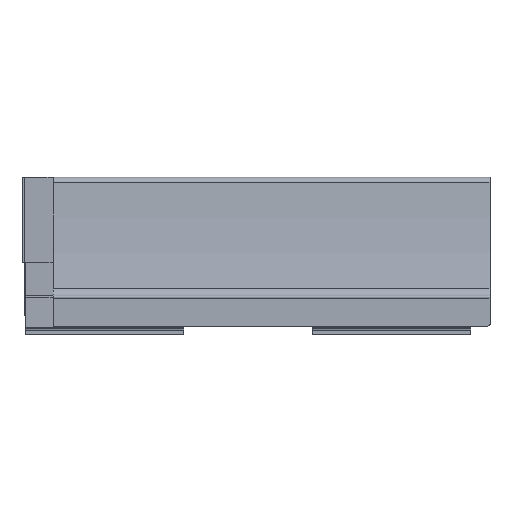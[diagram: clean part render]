
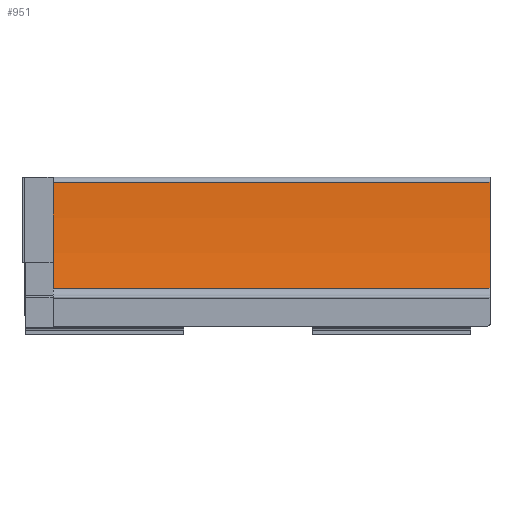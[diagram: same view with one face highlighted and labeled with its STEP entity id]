
A CAD part, left-side view. The second image highlights one B-rep face of the part: STEP entity #951.
In plain terms, the highlighted cylindrical face has radius 350 mm (diameter 700 mm), a partial arc.
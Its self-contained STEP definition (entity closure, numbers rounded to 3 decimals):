
#57 = AXIS2_PLACEMENT_3D ( 'NONE', #2640, #2642, #2643 ) ;
#145 = EDGE_CURVE ( 'NONE', #1989, #1988, #2908, .T. ) ;
#226 = AXIS2_PLACEMENT_3D ( 'NONE', #2045, #3018, #3019 ) ;
#261 = AXIS2_PLACEMENT_3D ( 'NONE', #2079, #2071, #2074 ) ;
#344 = EDGE_CURVE ( 'NONE', #1988, #1684, #802, .T. ) ;
#399 = EDGE_CURVE ( 'NONE', #1685, #1684, #2501, .T. ) ;
#407 = EDGE_CURVE ( 'NONE', #1989, #1685, #2511, .T. ) ;
#504 = CARTESIAN_POINT ( 'NONE',  ( -27.28, 248.8, -13.751 ) ) ;
#505 = CARTESIAN_POINT ( 'NONE',  ( -19.877, 248.8, 46.603 ) ) ;
#802 = LINE ( 'NONE', #3400, #803 ) ;
#803 = VECTOR ( 'NONE', #3401, 1000. ) ;
#951 = ADVANCED_FACE ( 'NONE', ( #3177 ), #3161, .F. ) ;
#1033 = EDGE_LOOP ( 'NONE', ( #1189, #1190, #1191, #1192 ) ) ;
#1189 = ORIENTED_EDGE ( 'NONE', *, *, #407, .F. ) ;
#1190 = ORIENTED_EDGE ( 'NONE', *, *, #145, .T. ) ;
#1191 = ORIENTED_EDGE ( 'NONE', *, *, #344, .T. ) ;
#1192 = ORIENTED_EDGE ( 'NONE', *, *, #399, .F. ) ;
#1684 = VERTEX_POINT ( 'NONE', #2312 ) ;
#1685 = VERTEX_POINT ( 'NONE', #2308 ) ;
#1988 = VERTEX_POINT ( 'NONE', #504 ) ;
#1989 = VERTEX_POINT ( 'NONE', #505 ) ;
#2045 = CARTESIAN_POINT ( 'NONE',  ( -369.661, 248.8, 58.879 ) ) ;
#2071 = DIRECTION ( 'NONE',  ( 0., -1., 0. ) ) ;
#2074 = DIRECTION ( 'NONE',  ( 1., 0., 0. ) ) ;
#2079 = CARTESIAN_POINT ( 'NONE',  ( -369.661, 265., 58.879 ) ) ;
#2308 = CARTESIAN_POINT ( 'NONE',  ( -19.877, 0., 46.603 ) ) ;
#2312 = CARTESIAN_POINT ( 'NONE',  ( -27.28, 0., -13.751 ) ) ;
#2501 = CIRCLE ( 'NONE', #57, 350. ) ;
#2511 = LINE ( 'NONE', #2660, #2512 ) ;
#2512 = VECTOR ( 'NONE', #2661, 1000. ) ;
#2640 = CARTESIAN_POINT ( 'NONE',  ( -369.661, 0., 58.879 ) ) ;
#2642 = DIRECTION ( 'NONE',  ( 0., 1., 0. ) ) ;
#2643 = DIRECTION ( 'NONE',  ( -1., 0., 0. ) ) ;
#2660 = CARTESIAN_POINT ( 'NONE',  ( -19.877, 265., 46.603 ) ) ;
#2661 = DIRECTION ( 'NONE',  ( 0., -1., 0. ) ) ;
#2908 = CIRCLE ( 'NONE', #226, 350. ) ;
#3018 = DIRECTION ( 'NONE',  ( 0., 1., 0. ) ) ;
#3019 = DIRECTION ( 'NONE',  ( -1., 0., 0. ) ) ;
#3161 = CYLINDRICAL_SURFACE ( 'NONE', #261, 350. ) ;
#3177 = FACE_OUTER_BOUND ( 'NONE', #1033, .T. ) ;
#3400 = CARTESIAN_POINT ( 'NONE',  ( -27.28, 265., -13.751 ) ) ;
#3401 = DIRECTION ( 'NONE',  ( 0., -1., 0. ) ) ;
